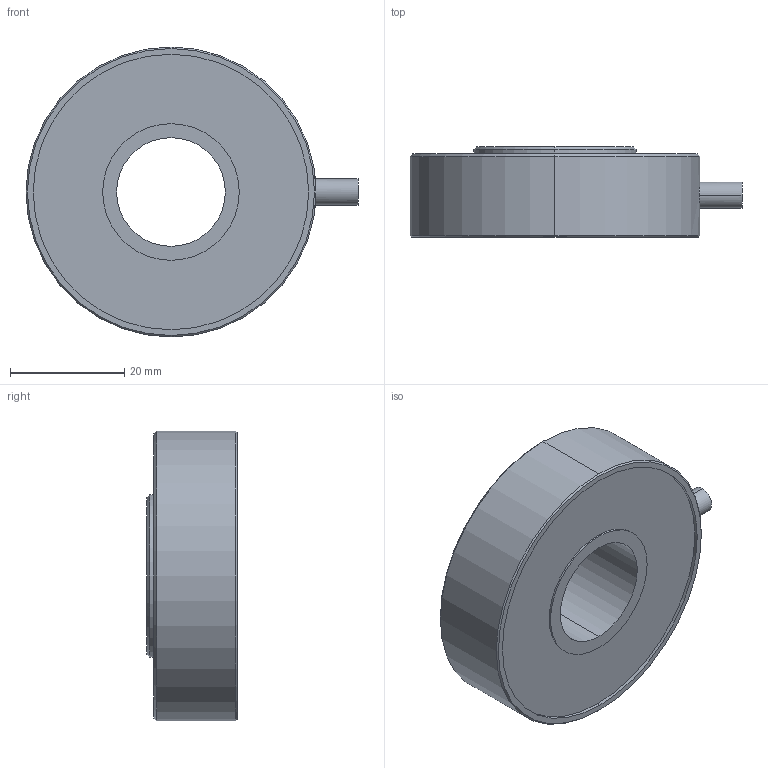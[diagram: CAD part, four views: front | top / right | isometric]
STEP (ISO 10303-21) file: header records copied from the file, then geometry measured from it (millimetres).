
FILE_DESCRIPTION (( 'STEP AP214' ), '1' );
FILE_NAME ('FINAL ASBY SS1808-5KLB.STEP', '2024-08-12T14:56:15', ( '' ), ( '' ), 'SwSTEP 2.0', 'SolidWorks 2008', '' );
FILE_SCHEMA (( 'AUTOMOTIVE_DESIGN' ));
Length unit declared in the file: inch
Products named in the file (1): FINAL ASBY SS1808-5KLB
Bounding box: 58.17 x 15.88 x 50.8 mm (x, y, z)
Volume: 25109.9 mm3; surface area: 6962.4 mm2
Topology: 1 solids, 1 shells, 28 faces, 56 edges, 34 vertices
Faces by surface type: cylinder 12, cone 8, plane 6, torus 2
Entity records: 819 total; most frequent: CARTESIAN_POINT 177, DIRECTION 146, ORIENTED_EDGE 112, AXIS2_PLACEMENT_3D 63, EDGE_CURVE 56, EDGE_LOOP 34, CIRCLE 34, VERTEX_POINT 34
